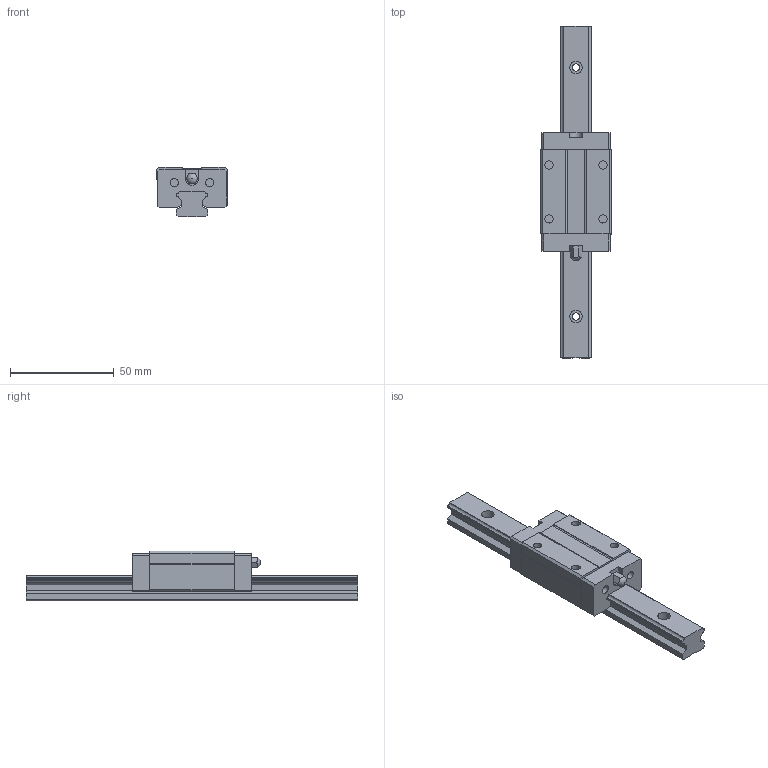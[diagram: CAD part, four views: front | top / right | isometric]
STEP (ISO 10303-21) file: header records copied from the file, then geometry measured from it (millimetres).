
FILE_DESCRIPTION(/* description */ (''),/* implementation_level */ '2;1');
FILE_NAME(/* name */ 'MSB15S',/* time_stamp */ '2004-05-24T10:55:06+08:00',/* author */ (''),/* organization */ (''),/* preprocessor_version */ 'ST-DEVELOPER v8',/* originating_system */ '',/* authorisation */ '');
FILE_SCHEMA (('CONFIG_CONTROL_DESIGN'));
Length unit declared in the file: millimetre
Products named in the file (1): zirc170C000v
Bounding box: 34 x 160 x 24 mm (x, y, z)
Volume: 54648.7 mm3; surface area: 19211.4 mm2
Topology: 3 solids, 3 shells, 133 faces, 349 edges, 233 vertices
Faces by surface type: plane 103, cylinder 28, sphere 2
Full cylindrical faces by diameter (mm): 3.5 x3, 4 x10, 6 x3
Entity records: 4070 total; most frequent: CARTESIAN_POINT 694, DIRECTION 670, ORIENTED_EDGE 660, EDGE_CURVE 330, LINE 258, VECTOR 258, VERTEX_POINT 230, AXIS2_PLACEMENT_3D 206
